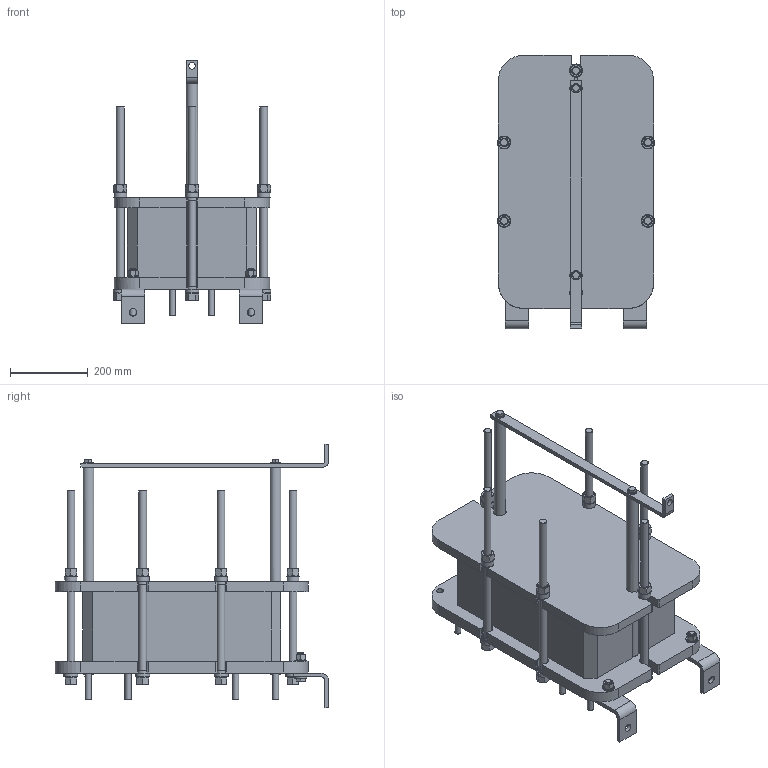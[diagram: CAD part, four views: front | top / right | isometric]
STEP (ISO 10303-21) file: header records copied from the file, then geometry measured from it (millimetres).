
FILE_DESCRIPTION((''),'2;1');
FILE_NAME('C:\temp\TS6_FG_LC500_5_01_Rev0.stp','2009-09-27T12:44:55',('CNSHFLU'),(''),'Autodesk Inventor 2008','Autodesk Inventor 2008','');
FILE_SCHEMA(('AUTOMOTIVE_DESIGN { 1 2 10303 214 0 1 1 1 }'));
Length unit declared in the file: millimetre
Products named in the file (1): TS6
Bounding box: 406 x 704 x 680 mm (x, y, z)
Volume: 43478038.8 mm3; surface area: 1779421.3 mm2
Topology: 1 solids, 7 shells, 1183 faces, 2861 edges, 1799 vertices
Faces by surface type: plane 607, cylinder 284, cone 272, bspline 20
Full cylindrical faces by diameter (mm): 3.75 x4, 12 x4, 13 x4, 13.5 x2, 16 x20, 17 x7, 18 x4, 20 x14, 21 x12, 23.166 x2, 24 x4, 26 x12, 30 x6, 33 x6, 36 x6, 65 x4, 70 x4
Entity records: 33260 total; most frequent: CARTESIAN_POINT 6795, DIRECTION 5489, ORIENTED_EDGE 5374, EDGE_CURVE 2687, AXIS2_PLACEMENT_3D 2094, VERTEX_POINT 1784, EDGE_LOOP 1485, VECTOR 1301
